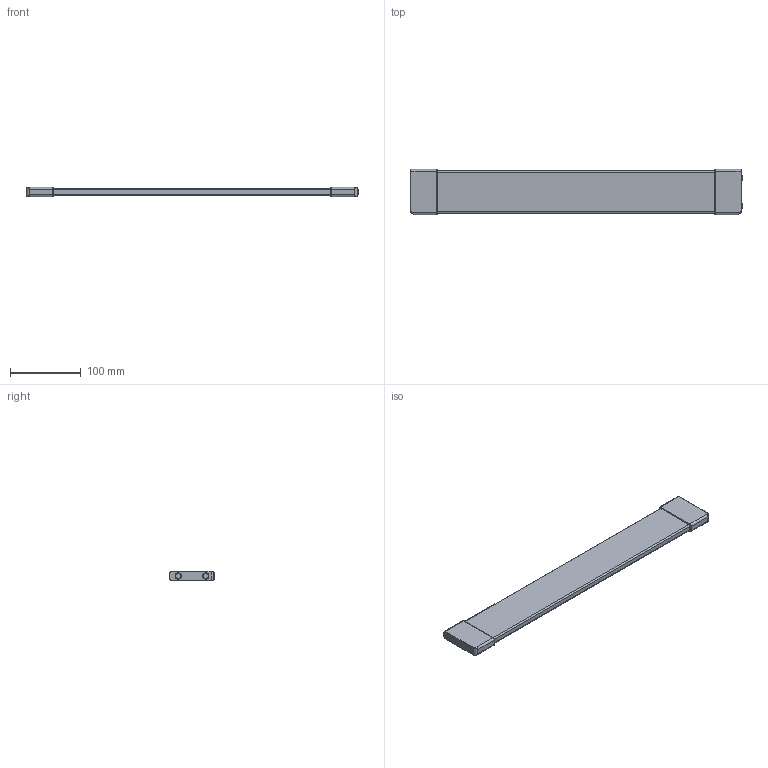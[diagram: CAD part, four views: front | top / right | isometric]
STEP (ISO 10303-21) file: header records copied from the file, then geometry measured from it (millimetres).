
FILE_DESCRIPTION (( 'STEP AP214' ), '1' );
FILE_NAME ('Schubkastenteiler_PROKAB_550.step', '2009-11-04T15:16:43', ( 'Waldinger Reinhard' ), ( 'Grass GmbH' ), 'SwSTEP 2.0', 'SolidWorks 2009', '' );
FILE_SCHEMA (( 'AUTOMOTIVE_DESIGN' ));
Length unit declared in the file: millimetre
Products named in the file (1): Schubkastenteiler_PROKAB_550
Bounding box: 467.9 x 63.7 x 13 mm (x, y, z)
Volume: 289585.6 mm3; surface area: 66263.8 mm2
Topology: 1 solids, 1 shells, 92 faces, 208 edges, 124 vertices
Faces by surface type: cylinder 38, torus 28, plane 22, bspline 4
Entity records: 3210 total; most frequent: CARTESIAN_POINT 1069, DIRECTION 486, ORIENTED_EDGE 416, EDGE_CURVE 208, AXIS2_PLACEMENT_3D 205, VERTEX_POINT 124, CIRCLE 116, EDGE_LOOP 98
